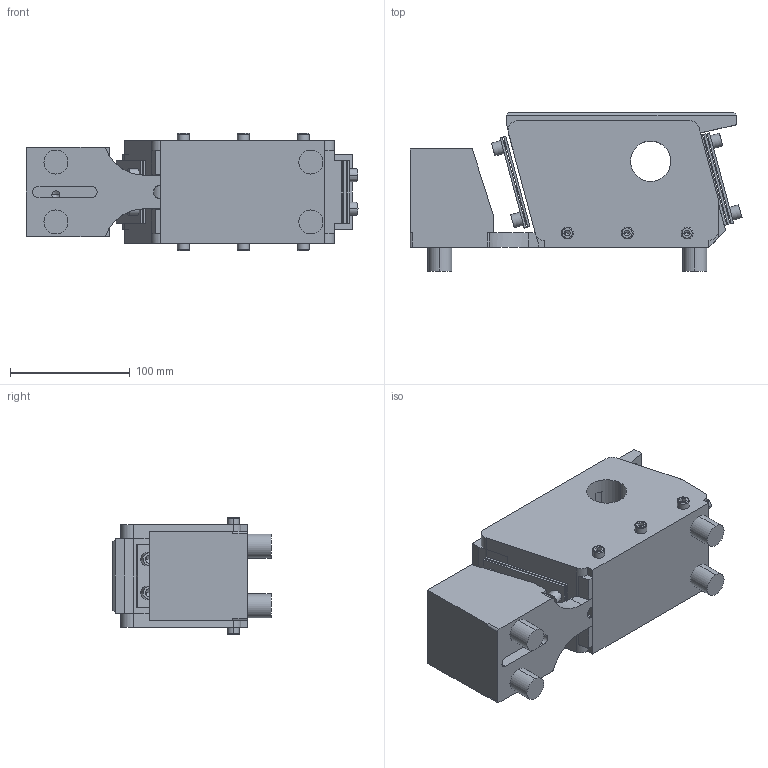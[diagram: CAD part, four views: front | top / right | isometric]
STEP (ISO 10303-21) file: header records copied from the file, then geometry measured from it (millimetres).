
FILE_DESCRIPTION(/* description */ (''),/* implementation_level */ '2;1');
FILE_NAME(/* name */ 'ZX190.stp',/* time_stamp */ '2022-04-16T13:16:11+08:00',/* author */ (''),/* organization */ (''),/* preprocessor_version */ 'ST-DEVELOPER v18.102',/* originating_system */ 'SIEMENS PLM Software NX 2019',/* authorisation */ '');
FILE_SCHEMA (('AUTOMOTIVE_DESIGN { 1 0 10303 214 3 1 1 1 }'));
Length unit declared in the file: millimetre
Products named in the file (1): ZX190_step_objects
Bounding box: 277.37 x 132.28 x 98 mm (x, y, z)
Volume: 2071749.9 mm3; surface area: 229197.9 mm2
Topology: 25 solids, 25 shells, 472 faces, 1131 edges, 698 vertices
Faces by surface type: plane 219, cylinder 182, cone 59, torus 12
Entity records: 13768 total; most frequent: DIRECTION 2440, CARTESIAN_POINT 2435, ORIENTED_EDGE 2174, EDGE_CURVE 1087, AXIS2_PLACEMENT_3D 911, VERTEX_POINT 698, LINE 618, VECTOR 618
